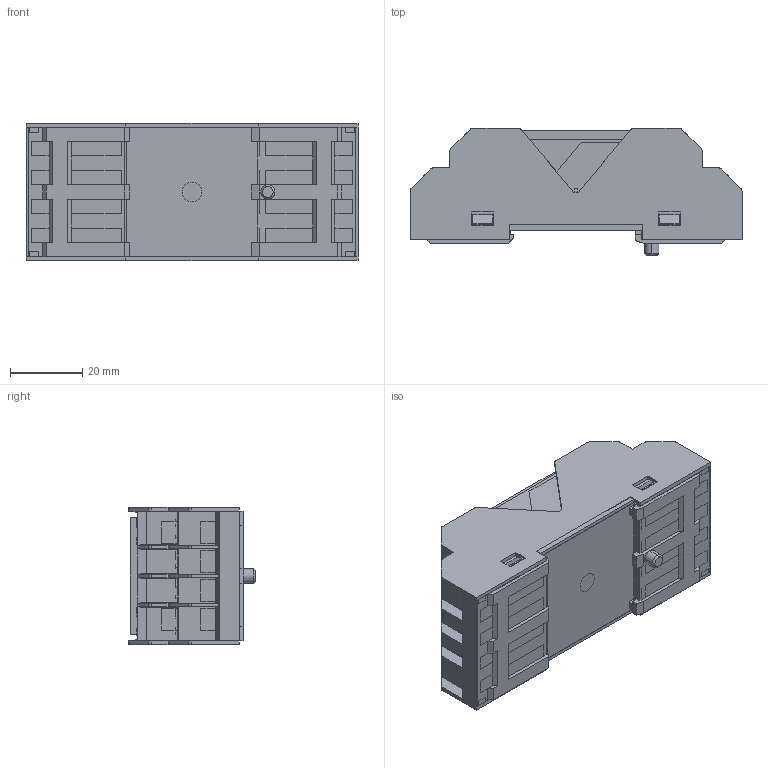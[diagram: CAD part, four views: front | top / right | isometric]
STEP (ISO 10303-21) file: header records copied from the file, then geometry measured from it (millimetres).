
FILE_DESCRIPTION (( 'STEP AP214' ), '1' );
FILE_NAME ('S4-J_CS-144.STEP', '2013-11-14T15:06:55', ( '' ), ( '' ), 'SwSTEP 2.0', 'SolidWorks 2013', '' );
FILE_SCHEMA (( 'AUTOMOTIVE_DESIGN' ));
Length unit declared in the file: millimetre
Products named in the file (1): S4-J_CS-144
Bounding box: 92 x 35.3 x 38.2 mm (x, y, z)
Volume: 78486.5 mm3; surface area: 19411 mm2
Topology: 1 solids, 9 shells, 1722 faces, 4726 edges, 3151 vertices
Faces by surface type: plane 1136, cylinder 287, bspline 267, torus 30, cone 2
Entity records: 78006 total; most frequent: CARTESIAN_POINT 18109, ORIENTED_EDGE 9452, DIRECTION 6949, EDGE_CURVE 4726, VERTEX_POINT 3151, LINE 2813, VECTOR 2813, AXIS2_PLACEMENT_3D 2068
